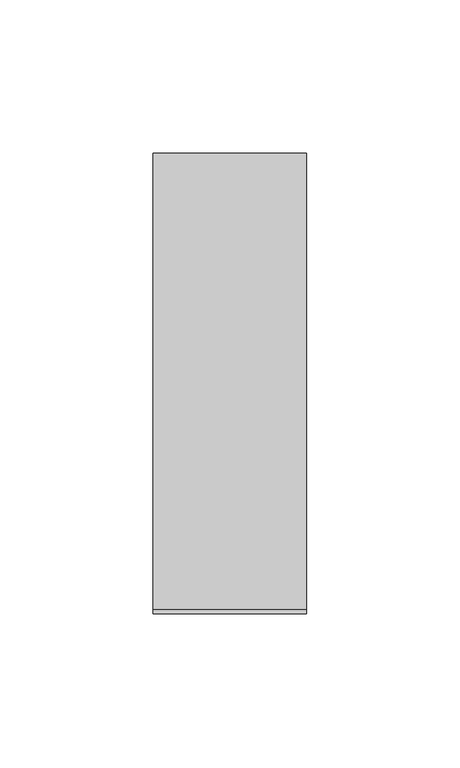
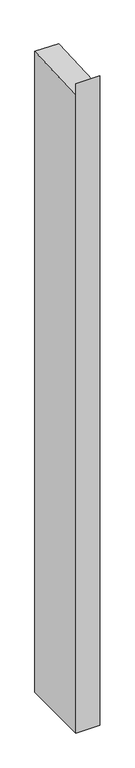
"""IFC4 building model written with IfcOpenShell, lengths in millimetres: member geometry, Прямоугольный импост : 50 x 150 мм."""

import ifcopenshell
import ifcopenshell.guid

model = None  # the IFC model being written
_history = None  # IfcOwnerHistory: only IFC2X3 demands one
_inside = {}  # id of a spatial element -> (the spatial element, [elements in it])
_under = {}  # id of a project, library or spatial element -> (it, [spatial elements below it])
_declared = {}  # id of a project -> (the project, [libraries it declares])
_typed = {}  # id of a type object -> (the type object, [elements of that type])
_made_of = {}  # id of a material, layer set ... -> (it, [elements and type objects made of it])


def new_model(schema):
    """Start an empty IFC model of exactly this schema.

    Asked for "IFC4X3", IfcOpenShell would pick the latest addendum, in which some entities
    have other attributes; the version numbers below select the first issue.
    IFC2X3 requires an IfcOwnerHistory on every rooted entity: one is made here for all.
    """
    global model, _history
    if schema == "IFC4X3":
        model = ifcopenshell.file(schema_version=(4, 3, 0, 0))
    else:
        model = ifcopenshell.file(schema=schema)
    _inside.clear()
    _under.clear()
    _declared.clear()
    _typed.clear()
    _made_of.clear()
    _history = None
    if model.schema == "IFC2X3":
        org = make("IfcOrganization", Name="unknown")
        user = make(
            "IfcPersonAndOrganization",
            ThePerson=make("IfcPerson", FamilyName="unknown"),
            TheOrganization=org,
        )
        app = make(
            "IfcApplication",
            ApplicationDeveloper=org,
            Version="unknown",
            ApplicationFullName="unknown",
            ApplicationIdentifier="unknown",
        )
        _history = make(
            "IfcOwnerHistory",
            OwningUser=user,
            OwningApplication=app,
            ChangeAction="ADDED",
            CreationDate=0,
        )
    return model


def make(cls, **values):
    """One entity of the class cls with the attributes given. An attribute that is None is left unset."""
    return model.create_entity(
        cls, **{name: value for name, value in values.items() if value is not None}
    )


def rooted(cls, **values):
    """An entity with a GlobalId (a new one), such as an element, a storey or a relation."""
    return make(cls, GlobalId=ifcopenshell.guid.new(), OwnerHistory=_history, **values)


def si_unit(unit_type, name, prefix=None):
    """IfcSIUnit, for example si_unit("LENGTHUNIT", "METRE", prefix="MILLI")."""
    return make("IfcSIUnit", UnitType=unit_type, Prefix=prefix, Name=name)


def assignment(units):
    """IfcUnitAssignment: the units of a project."""
    return None if units is None else make("IfcUnitAssignment", Units=units)


def point(xyz):
    """IfcCartesianPoint."""
    return None if xyz is None else make("IfcCartesianPoint", Coordinates=xyz)


def direction(xyz):
    """IfcDirection."""
    return None if xyz is None else make("IfcDirection", DirectionRatios=xyz)


def frame(location, z_axis=None, x_axis=None):
    """IfcAxis2Placement3D, a coordinate frame: its origin and axes. An axis left out is left unset."""
    return make(
        "IfcAxis2Placement3D",
        Location=point(location),
        Axis=direction(z_axis),
        RefDirection=direction(x_axis),
    )


def origin():
    """The frame at (0, 0, 0) with its axes left unset."""
    return frame((0.0, 0.0, 0.0))


def place(relative_to, where):
    """IfcLocalPlacement: puts the frame where relative to a parent placement (None: the world)."""
    return make(
        "IfcLocalPlacement", PlacementRelTo=relative_to, RelativePlacement=where
    )


def context(
    kind, dimensions, precision=None, world=None, true_north=None, identifier=None
):
    """IfcGeometricRepresentationContext, for example the 3D "Model" context."""
    return make(
        "IfcGeometricRepresentationContext",
        ContextIdentifier=identifier,
        ContextType=kind,
        CoordinateSpaceDimension=dimensions,
        Precision=precision,
        WorldCoordinateSystem=world,
        TrueNorth=true_north,
    )


def project(units=None, contexts=None):
    """IfcProject with its units and contexts."""
    return rooted(
        "IfcProject",
        Name="project",
        RepresentationContexts=contexts,
        UnitsInContext=assignment(units),
    )


def spatial(cls, under=None, at=None, **own):
    """A site, building, storey or space (cls), placed at a placement, below another one or the project."""
    s = rooted(cls, ObjectPlacement=at, **own)
    if under is not None:
        _under.setdefault(under.id(), (under, []))[1].append(s)
    return s


def polyline(points):
    """IfcPolyline through the points."""
    return make("IfcPolyline", Points=[point(p) for p in points])


def outline(outer, holes=None, kind="AREA"):
    """IfcArbitraryClosedProfileDef: a profile drawn as a closed curve; with holes, ...WithVoids."""
    if holes is None:
        return make("IfcArbitraryClosedProfileDef", ProfileType=kind, OuterCurve=outer)
    return make(
        "IfcArbitraryProfileDefWithVoids",
        ProfileType=kind,
        OuterCurve=outer,
        InnerCurves=holes,
    )


def extrude(swept, where, along, depth):
    """IfcExtrudedAreaSolid: the profile swept, set in the frame where, extruded along a direction by depth."""
    return make(
        "IfcExtrudedAreaSolid",
        SweptArea=swept,
        Position=where,
        ExtrudedDirection=direction(along),
        Depth=depth,
    )


def shape(context_of_items, identifier, shape_type, items):
    """IfcShapeRepresentation: the items that make up one representation, for example the "Body"."""
    return make(
        "IfcShapeRepresentation",
        ContextOfItems=context_of_items,
        RepresentationIdentifier=identifier,
        RepresentationType=shape_type,
        Items=items,
    )


def source(mapping_origin, context_of_items, identifier, shape_type, items):
    """IfcRepresentationMap: a shape defined once, which mapped items show again and again."""
    return make(
        "IfcRepresentationMap",
        MappingOrigin=mapping_origin,
        MappedRepresentation=shape(context_of_items, identifier, shape_type, items),
    )


def transform(
    local_origin,
    x_axis=None,
    y_axis=None,
    z_axis=None,
    scale=None,
    scale2=None,
    scale3=None,
    uniform=True,
):
    """IfcCartesianTransformationOperator3D, or its non-uniform kind. x_axis, y_axis, z_axis: its Axis1, 2, 3."""
    if uniform:
        return make(
            "IfcCartesianTransformationOperator3D",
            Axis1=direction(x_axis),
            Axis2=direction(y_axis),
            LocalOrigin=point(local_origin),
            Scale=scale,
            Axis3=direction(z_axis),
        )
    return make(
        "IfcCartesianTransformationOperator3DnonUniform",
        Axis1=direction(x_axis),
        Axis2=direction(y_axis),
        LocalOrigin=point(local_origin),
        Scale=scale,
        Axis3=direction(z_axis),
        Scale2=scale2,
        Scale3=scale3,
    )


def mapped(mapping_source, mapping_target):
    """IfcMappedItem: shows the shape of a source again, moved by a transform."""
    return make(
        "IfcMappedItem", MappingSource=mapping_source, MappingTarget=mapping_target
    )


def made_of(thing, what):
    """Note that an element or type object is made of a material, layer set ...; save() writes the relation."""
    if what is not None:
        _made_of.setdefault(what.id(), (what, []))[1].append(thing)
    return thing


def element(
    cls,
    number,
    at=None,
    inside=None,
    cuts=None,
    type_object=None,
    material=None,
    context=None,
    identifier="Body",
    shape_type=None,
    held_by="IfcProductDefinitionShape",
    body=None,
    shapes=None,
    **own,
):
    """One element of the class cls, such as IfcWall. Its Tag is "e" and its number.

    at: its placement. inside: the storey or other place that contains it. cuts: it is an
    opening in that element (IfcRelVoidsElement). A single representation is given by context,
    identifier, shape_type and body (its items); several are given by shapes. held_by: the class
    of the entity that holds the representations. save() writes the other relations.
    """
    e = rooted(cls, Tag="e%d" % number, ObjectPlacement=at, **own)
    if body is not None:
        shapes = [shape(context, identifier, shape_type, body)]
    if shapes is not None:
        e.Representation = make(held_by, Representations=shapes)
    if inside is not None:
        _inside.setdefault(inside.id(), (inside, []))[1].append(e)
    if cuts is not None:
        rooted(
            "IfcRelVoidsElement", RelatingBuildingElement=cuts, RelatedOpeningElement=e
        )
    if type_object is not None:
        _typed.setdefault(type_object.id(), (type_object, []))[1].append(e)
    return made_of(e, material)


def aggregate(whole, parts):
    """IfcRelAggregates: a whole, such as a stair, and the parts it consists of."""
    return rooted("IfcRelAggregates", RelatingObject=whole, RelatedObjects=parts)


def save(model, path):
    """Write the relations noted so far, then the file.

    IfcRelAggregates (storeys below a building ...), IfcRelContainedInSpatialStructure (elements
    in a storey), IfcRelDefinesByType, IfcRelAssociatesMaterial and IfcRelDeclares: one each for
    every whole, place, type object, material and project.
    """
    for whole, parts in _under.values():
        aggregate(whole, parts)
    for where, things in _inside.values():
        rooted(
            "IfcRelContainedInSpatialStructure",
            RelatedElements=things,
            RelatingStructure=where,
        )
    for kind, things in _typed.values():
        rooted("IfcRelDefinesByType", RelatedObjects=things, RelatingType=kind)
    for what, things in _made_of.values():
        rooted("IfcRelAssociatesMaterial", RelatedObjects=things, RelatingMaterial=what)
    for by, libraries in _declared.values():
        rooted("IfcRelDeclares", RelatingContext=by, RelatedDefinitions=libraries)
    model.write(path)


def member_407b9f69(model_context):
    return source(origin(), model_context, "Body", "SweptSolid", [
        extrude(outline(polyline([(-75.0, 23.0789758), (-73.6218125, -3.8067479), (75.0, 3.8117461), (75.0, -1425.0), (-75.0, -1425.0), (-75.0, 23.0789758)])), frame((-50.0, 0.0, 0.0), z_axis=(1.0, 0.0, 0.0), x_axis=(0.0, 1.0, 0.0)), (0.0, 0.0, 1.0), 50.0),
    ])


if __name__ == "__main__":
    model = new_model("IFC4")
    model_context = context("Model", 3, world=origin())
    ifc_project = project(units=[si_unit("LENGTHUNIT", "METRE", prefix="MILLI")], contexts=[model_context])
    site = spatial("IfcSite", under=ifc_project)
    building = spatial("IfcBuilding", under=site)
    placement = place(None, origin())
    member_shape = member_407b9f69(model_context)
    element("IfcMember", 1, ObjectType="Прямоугольный импост : 50 x 150 мм", at=placement, inside=building, context=model_context, shape_type="MappedRepresentation", body=[
        mapped(member_shape, transform((0.0, 0.0, 0.0), x_axis=(1.0, 0.0, 0.0), y_axis=(0.0, 1.0, 0.0), z_axis=(0.0, 0.0, 1.0))),
    ])
    save(model, "model.ifc")
